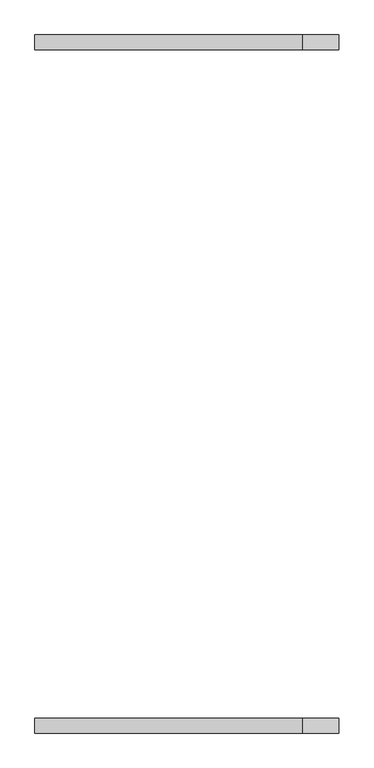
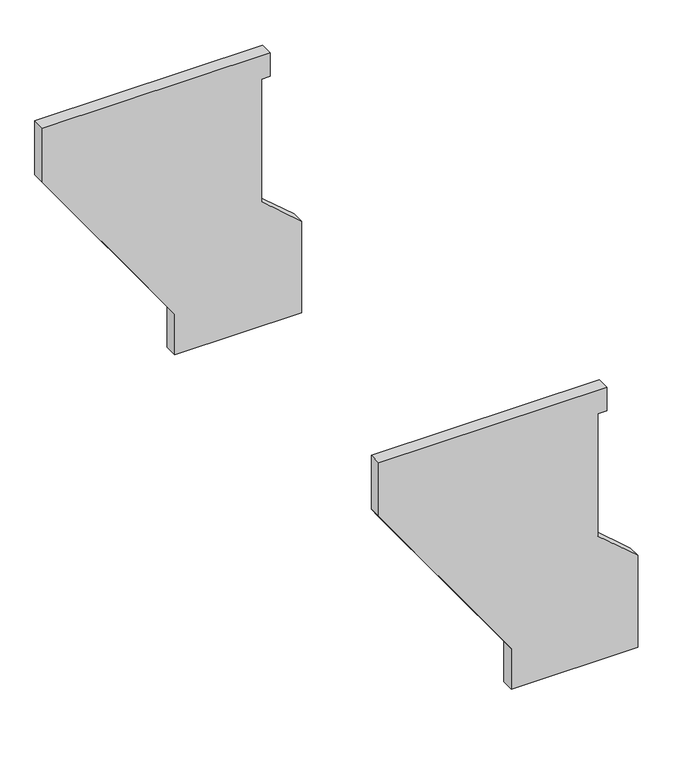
"""IFC4 building model written with IfcOpenShell, lengths in millimetres: proxy geometry, 날개벽 : 날개벽."""

import ifcopenshell
import ifcopenshell.guid

model = None  # the IFC model being written
_history = None  # IfcOwnerHistory: only IFC2X3 demands one
_inside = {}  # id of a spatial element -> (the spatial element, [elements in it])
_under = {}  # id of a project, library or spatial element -> (it, [spatial elements below it])
_declared = {}  # id of a project -> (the project, [libraries it declares])
_typed = {}  # id of a type object -> (the type object, [elements of that type])
_made_of = {}  # id of a material, layer set ... -> (it, [elements and type objects made of it])


def new_model(schema):
    """Start an empty IFC model of exactly this schema.

    Asked for "IFC4X3", IfcOpenShell would pick the latest addendum, in which some entities
    have other attributes; the version numbers below select the first issue.
    IFC2X3 requires an IfcOwnerHistory on every rooted entity: one is made here for all.
    """
    global model, _history
    if schema == "IFC4X3":
        model = ifcopenshell.file(schema_version=(4, 3, 0, 0))
    else:
        model = ifcopenshell.file(schema=schema)
    _inside.clear()
    _under.clear()
    _declared.clear()
    _typed.clear()
    _made_of.clear()
    _history = None
    if model.schema == "IFC2X3":
        org = make("IfcOrganization", Name="unknown")
        user = make(
            "IfcPersonAndOrganization",
            ThePerson=make("IfcPerson", FamilyName="unknown"),
            TheOrganization=org,
        )
        app = make(
            "IfcApplication",
            ApplicationDeveloper=org,
            Version="unknown",
            ApplicationFullName="unknown",
            ApplicationIdentifier="unknown",
        )
        _history = make(
            "IfcOwnerHistory",
            OwningUser=user,
            OwningApplication=app,
            ChangeAction="ADDED",
            CreationDate=0,
        )
    return model


def make(cls, **values):
    """One entity of the class cls with the attributes given. An attribute that is None is left unset."""
    return model.create_entity(
        cls, **{name: value for name, value in values.items() if value is not None}
    )


def rooted(cls, **values):
    """An entity with a GlobalId (a new one), such as an element, a storey or a relation."""
    return make(cls, GlobalId=ifcopenshell.guid.new(), OwnerHistory=_history, **values)


def si_unit(unit_type, name, prefix=None):
    """IfcSIUnit, for example si_unit("LENGTHUNIT", "METRE", prefix="MILLI")."""
    return make("IfcSIUnit", UnitType=unit_type, Prefix=prefix, Name=name)


def assignment(units):
    """IfcUnitAssignment: the units of a project."""
    return None if units is None else make("IfcUnitAssignment", Units=units)


def point(xyz):
    """IfcCartesianPoint."""
    return None if xyz is None else make("IfcCartesianPoint", Coordinates=xyz)


def direction(xyz):
    """IfcDirection."""
    return None if xyz is None else make("IfcDirection", DirectionRatios=xyz)


def frame(location, z_axis=None, x_axis=None):
    """IfcAxis2Placement3D, a coordinate frame: its origin and axes. An axis left out is left unset."""
    return make(
        "IfcAxis2Placement3D",
        Location=point(location),
        Axis=direction(z_axis),
        RefDirection=direction(x_axis),
    )


def origin():
    """The frame at (0, 0, 0) with its axes left unset."""
    return frame((0.0, 0.0, 0.0))


def place(relative_to, where):
    """IfcLocalPlacement: puts the frame where relative to a parent placement (None: the world)."""
    return make(
        "IfcLocalPlacement", PlacementRelTo=relative_to, RelativePlacement=where
    )


def context(
    kind, dimensions, precision=None, world=None, true_north=None, identifier=None
):
    """IfcGeometricRepresentationContext, for example the 3D "Model" context."""
    return make(
        "IfcGeometricRepresentationContext",
        ContextIdentifier=identifier,
        ContextType=kind,
        CoordinateSpaceDimension=dimensions,
        Precision=precision,
        WorldCoordinateSystem=world,
        TrueNorth=true_north,
    )


def project(units=None, contexts=None):
    """IfcProject with its units and contexts."""
    return rooted(
        "IfcProject",
        Name="project",
        RepresentationContexts=contexts,
        UnitsInContext=assignment(units),
    )


def spatial(cls, under=None, at=None, **own):
    """A site, building, storey or space (cls), placed at a placement, below another one or the project."""
    s = rooted(cls, ObjectPlacement=at, **own)
    if under is not None:
        _under.setdefault(under.id(), (under, []))[1].append(s)
    return s


def polyline(points):
    """IfcPolyline through the points."""
    return make("IfcPolyline", Points=[point(p) for p in points])


def outline(outer, holes=None, kind="AREA"):
    """IfcArbitraryClosedProfileDef: a profile drawn as a closed curve; with holes, ...WithVoids."""
    if holes is None:
        return make("IfcArbitraryClosedProfileDef", ProfileType=kind, OuterCurve=outer)
    return make(
        "IfcArbitraryProfileDefWithVoids",
        ProfileType=kind,
        OuterCurve=outer,
        InnerCurves=holes,
    )


def extrude(swept, where, along, depth):
    """IfcExtrudedAreaSolid: the profile swept, set in the frame where, extruded along a direction by depth."""
    return make(
        "IfcExtrudedAreaSolid",
        SweptArea=swept,
        Position=where,
        ExtrudedDirection=direction(along),
        Depth=depth,
    )


def shape(context_of_items, identifier, shape_type, items):
    """IfcShapeRepresentation: the items that make up one representation, for example the "Body"."""
    return make(
        "IfcShapeRepresentation",
        ContextOfItems=context_of_items,
        RepresentationIdentifier=identifier,
        RepresentationType=shape_type,
        Items=items,
    )


def source(mapping_origin, context_of_items, identifier, shape_type, items):
    """IfcRepresentationMap: a shape defined once, which mapped items show again and again."""
    return make(
        "IfcRepresentationMap",
        MappingOrigin=mapping_origin,
        MappedRepresentation=shape(context_of_items, identifier, shape_type, items),
    )


def transform(
    local_origin,
    x_axis=None,
    y_axis=None,
    z_axis=None,
    scale=None,
    scale2=None,
    scale3=None,
    uniform=True,
):
    """IfcCartesianTransformationOperator3D, or its non-uniform kind. x_axis, y_axis, z_axis: its Axis1, 2, 3."""
    if uniform:
        return make(
            "IfcCartesianTransformationOperator3D",
            Axis1=direction(x_axis),
            Axis2=direction(y_axis),
            LocalOrigin=point(local_origin),
            Scale=scale,
            Axis3=direction(z_axis),
        )
    return make(
        "IfcCartesianTransformationOperator3DnonUniform",
        Axis1=direction(x_axis),
        Axis2=direction(y_axis),
        LocalOrigin=point(local_origin),
        Scale=scale,
        Axis3=direction(z_axis),
        Scale2=scale2,
        Scale3=scale3,
    )


def mapped(mapping_source, mapping_target):
    """IfcMappedItem: shows the shape of a source again, moved by a transform."""
    return make(
        "IfcMappedItem", MappingSource=mapping_source, MappingTarget=mapping_target
    )


def made_of(thing, what):
    """Note that an element or type object is made of a material, layer set ...; save() writes the relation."""
    if what is not None:
        _made_of.setdefault(what.id(), (what, []))[1].append(thing)
    return thing


def element(
    cls,
    number,
    at=None,
    inside=None,
    cuts=None,
    type_object=None,
    material=None,
    context=None,
    identifier="Body",
    shape_type=None,
    held_by="IfcProductDefinitionShape",
    body=None,
    shapes=None,
    **own,
):
    """One element of the class cls, such as IfcWall. Its Tag is "e" and its number.

    at: its placement. inside: the storey or other place that contains it. cuts: it is an
    opening in that element (IfcRelVoidsElement). A single representation is given by context,
    identifier, shape_type and body (its items); several are given by shapes. held_by: the class
    of the entity that holds the representations. save() writes the other relations.
    """
    e = rooted(cls, Tag="e%d" % number, ObjectPlacement=at, **own)
    if body is not None:
        shapes = [shape(context, identifier, shape_type, body)]
    if shapes is not None:
        e.Representation = make(held_by, Representations=shapes)
    if inside is not None:
        _inside.setdefault(inside.id(), (inside, []))[1].append(e)
    if cuts is not None:
        rooted(
            "IfcRelVoidsElement", RelatingBuildingElement=cuts, RelatedOpeningElement=e
        )
    if type_object is not None:
        _typed.setdefault(type_object.id(), (type_object, []))[1].append(e)
    return made_of(e, material)


def aggregate(whole, parts):
    """IfcRelAggregates: a whole, such as a stair, and the parts it consists of."""
    return rooted("IfcRelAggregates", RelatingObject=whole, RelatedObjects=parts)


def save(model, path):
    """Write the relations noted so far, then the file.

    IfcRelAggregates (storeys below a building ...), IfcRelContainedInSpatialStructure (elements
    in a storey), IfcRelDefinesByType, IfcRelAssociatesMaterial and IfcRelDeclares: one each for
    every whole, place, type object, material and project.
    """
    for whole, parts in _under.values():
        aggregate(whole, parts)
    for where, things in _inside.values():
        rooted(
            "IfcRelContainedInSpatialStructure",
            RelatedElements=things,
            RelatingStructure=where,
        )
    for kind, things in _typed.values():
        rooted("IfcRelDefinesByType", RelatedObjects=things, RelatingType=kind)
    for what, things in _made_of.values():
        rooted("IfcRelAssociatesMaterial", RelatedObjects=things, RelatingMaterial=what)
    for by, libraries in _declared.values():
        rooted("IfcRelDeclares", RelatingContext=by, RelatedDefinitions=libraries)
    model.write(path)


def generic_models_ccaa3bc6(model_context):
    return source(origin(), model_context, "Body", "SweptSolid", [
        extrude(outline(polyline([(5000.0, -16030.366559), (5000.0, -11580.366559), (8400.0, -11580.366559), (9600.0, -12980.366559), (14150.0, -12980.366559), (14150.0, -12680.366559), (15030.0, -12680.366559), (15030.0, -20680.366559), (13030.0, -20680.366559), (6500.0, -16030.366559), (5000.0, -16030.366559)])), frame((0.0, 10448.8136521, 0.0), z_axis=(0.0, 1.0, 0.0), x_axis=(0.0, 0.0, 1.0)), (0.0, 0.0, 1.0), 450.0),
        extrude(outline(polyline([(8400.0, -11580.366559), (9600.0, -12980.366559), (14150.0, -12980.366559), (14150.0, -12680.366559), (15030.0, -12680.366559), (15030.0, -20680.366559), (13030.0, -20680.366559), (6500.0, -16030.366559), (5000.0, -16030.366559), (5000.0, -11580.366559), (8400.0, -11580.366559)])), frame((0.0, -10001.1863479, 0.0), z_axis=(0.0, 1.0, 0.0), x_axis=(0.0, 0.0, 1.0)), (0.0, 0.0, 1.0), 450.0),
    ])


if __name__ == "__main__":
    model = new_model("IFC4")
    model_context = context("Model", 3, world=origin())
    ifc_project = project(units=[si_unit("LENGTHUNIT", "METRE", prefix="MILLI")], contexts=[model_context])
    site = spatial("IfcSite", under=ifc_project)
    building = spatial("IfcBuilding", under=site)
    placement = place(None, origin())
    generic_models_shape = generic_models_ccaa3bc6(model_context)
    element("IfcBuildingElementProxy", 1, Name="날개벽 : 날개벽", ObjectType="날개벽 : 날개벽", at=placement, inside=building, context=model_context, shape_type="MappedRepresentation", body=[
        mapped(generic_models_shape, transform((0.0, 0.0, 0.0), x_axis=(1.0, 0.0, 0.0), y_axis=(0.0, 1.0, 0.0), z_axis=(0.0, 0.0, 1.0))),
    ])
    save(model, "model.ifc")
